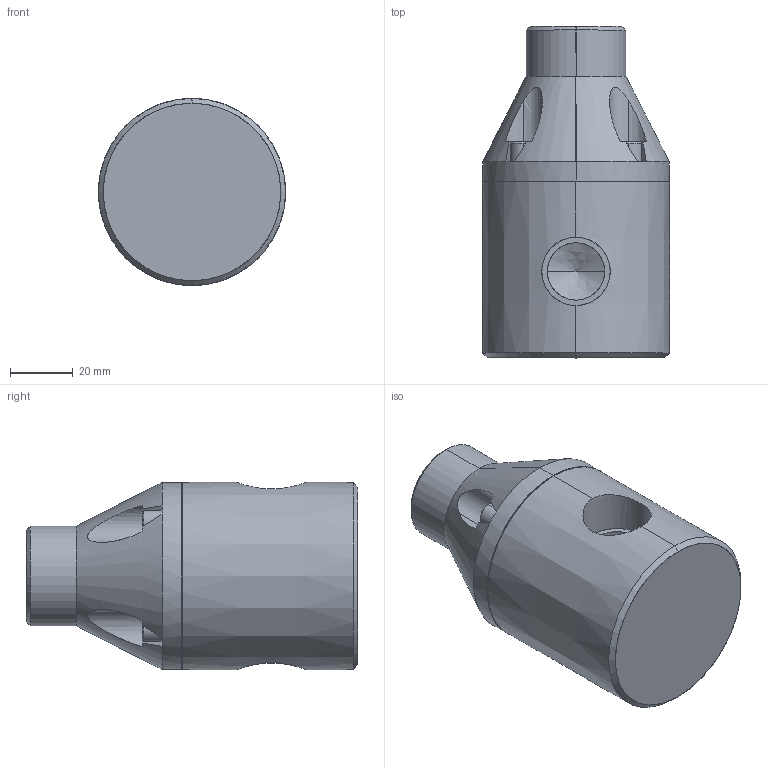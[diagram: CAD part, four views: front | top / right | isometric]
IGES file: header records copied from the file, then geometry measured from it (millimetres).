
Start section: SolidWorks IGES file using analytic representation for surfaces
Global section: file name: F:\Griffco-Valve\Griffco_current-projects\GV_web-files_2015\M Series\MBP0500MSOC.IGS; native system: SolidWorks 2008; preprocessor: SolidWorks 2008; author: Dan; date: 150407.210203; units: inch
Bounding box: 59.44 x 105.41 x 59.44 mm (x, y, z)
Surface area: 27857.6 mm2 (no closed solid volume)
Topology: 0 solids, 0 shells, 126 faces, 1876 edges, 1872 vertices
Faces by surface type: bspline 70, revolution 56
